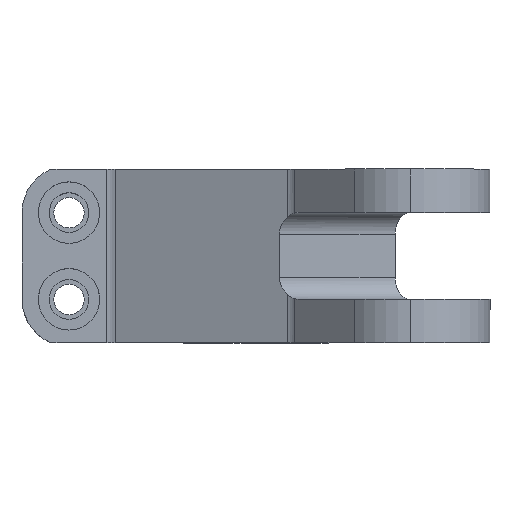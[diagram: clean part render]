
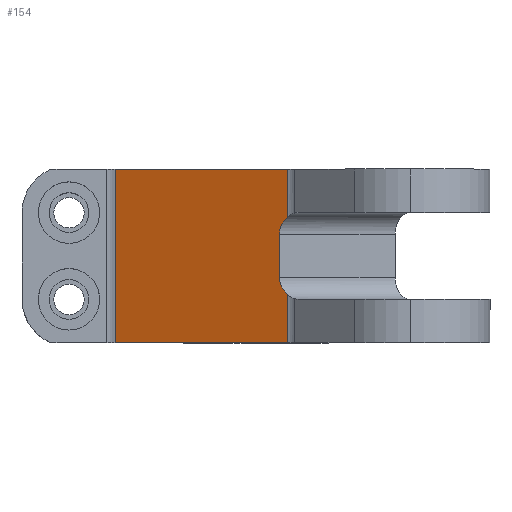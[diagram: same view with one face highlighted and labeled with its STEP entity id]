
A CAD part, top view. The second image highlights one B-rep face of the part: STEP entity #154.
In plain terms, the highlighted planar face has unit normal (-0.383, 0, 0.924).
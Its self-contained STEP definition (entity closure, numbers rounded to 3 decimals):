
#15 = VERTEX_POINT ( 'NONE', #496 ) ;
#78 = CARTESIAN_POINT ( 'NONE',  ( -19.173, 0., 11. ) ) ;
#131 = VERTEX_POINT ( 'NONE', #1771 ) ;
#136 = ORIENTED_EDGE ( 'NONE', *, *, #277, .F. ) ;
#154 = ADVANCED_FACE ( 'NONE', ( #1703 ), #1777, .T. ) ;
#157 = ORIENTED_EDGE ( 'NONE', *, *, #988, .F. ) ;
#187 = CARTESIAN_POINT ( 'NONE',  ( 4.106, -27.009, 20.643 ) ) ;
#194 = DIRECTION ( 'NONE',  ( 0.924, 0., 0.383 ) ) ;
#201 = DIRECTION ( 'NONE',  ( 0., 1., 0. ) ) ;
#240 = VERTEX_POINT ( 'NONE', #1607 ) ;
#249 = VECTOR ( 'NONE', #676, 1000. ) ;
#250 = DIRECTION ( 'NONE',  ( 0., 1., 0. ) ) ;
#263 = CARTESIAN_POINT ( 'NONE',  ( 5.228, 17.34, 21.107 ) ) ;
#277 = EDGE_CURVE ( 'NONE', #737, #865, #1632, .T. ) ;
#287 = EDGE_CURVE ( 'NONE', #612, #131, #413, .T. ) ;
#344 = CARTESIAN_POINT ( 'NONE',  ( -18.622, 24., 11.228 ) ) ;
#355 = CARTESIAN_POINT ( 'NONE',  ( 5.228, 6.309, 21.107 ) ) ;
#365 = CARTESIAN_POINT ( 'NONE',  ( 4.506, 7.24, 20.808 ) ) ;
#410 = CARTESIAN_POINT ( 'NONE',  ( 4.106, 15., 20.643 ) ) ;
#413 = LINE ( 'NONE', #866, #771 ) ;
#496 = CARTESIAN_POINT ( 'NONE',  ( 5.228, 0., 21.107 ) ) ;
#515 = ORIENTED_EDGE ( 'NONE', *, *, #287, .T. ) ;
#587 =( BOUNDED_CURVE ( )  B_SPLINE_CURVE ( 3, ( #814, #1268, #365, #1426 ),
 .UNSPECIFIED., .F., .F. ) 
 B_SPLINE_CURVE_WITH_KNOTS ( ( 4, 4 ),
 ( 3.142, 4.036 ),
 .UNSPECIFIED. ) 
 CURVE ( )  GEOMETRIC_REPRESENTATION_ITEM ( )  RATIONAL_B_SPLINE_CURVE ( ( 1., 0.934, 0.934, 1. ) ) 
 REPRESENTATION_ITEM ( '' )  );
#605 = ORIENTED_EDGE ( 'NONE', *, *, #1911, .F. ) ;
#612 = VERTEX_POINT ( 'NONE', #344 ) ;
#638 = DIRECTION ( 'NONE',  ( 0., -1., 0. ) ) ;
#645 = LINE ( 'NONE', #78, #249 ) ;
#647 = VECTOR ( 'NONE', #194, 1000. ) ;
#673 = CARTESIAN_POINT ( 'NONE',  ( 5.228, 6.66, 21.107 ) ) ;
#676 = DIRECTION ( 'NONE',  ( -0.924, 0., -0.383 ) ) ;
#737 = VERTEX_POINT ( 'NONE', #1230 ) ;
#769 = CARTESIAN_POINT ( 'NONE',  ( 5.228, 24., 21.107 ) ) ;
#771 = VECTOR ( 'NONE', #1024, 1000. ) ;
#786 = LINE ( 'NONE', #187, #1899 ) ;
#814 = CARTESIAN_POINT ( 'NONE',  ( 4.106, 9., 20.643 ) ) ;
#824 = ORIENTED_EDGE ( 'NONE', *, *, #1442, .T. ) ;
#865 = VERTEX_POINT ( 'NONE', #1428 ) ;
#866 = CARTESIAN_POINT ( 'NONE',  ( -18.622, 0., 11.228 ) ) ;
#876 = DIRECTION ( 'NONE',  ( -0.383, 0., 0.924 ) ) ;
#952 = CARTESIAN_POINT ( 'NONE',  ( -19.173, 24., 11. ) ) ;
#988 = EDGE_CURVE ( 'NONE', #240, #1296, #587, .T. ) ;
#1024 = DIRECTION ( 'NONE',  ( 0., -1., 0. ) ) ;
#1054 = LINE ( 'NONE', #952, #647 ) ;
#1094 = EDGE_CURVE ( 'NONE', #15, #1296, #1188, .T. ) ;
#1173 = CARTESIAN_POINT ( 'NONE',  ( -19.173, -27.009, 11. ) ) ;
#1181 = ORIENTED_EDGE ( 'NONE', *, *, #1094, .T. ) ;
#1188 = LINE ( 'NONE', #355, #1940 ) ;
#1190 = EDGE_CURVE ( 'NONE', #15, #131, #645, .T. ) ;
#1230 = CARTESIAN_POINT ( 'NONE',  ( 5.228, 17.34, 21.107 ) ) ;
#1268 = CARTESIAN_POINT ( 'NONE',  ( 4.106, 8.074, 20.643 ) ) ;
#1296 = VERTEX_POINT ( 'NONE', #673 ) ;
#1308 = CARTESIAN_POINT ( 'NONE',  ( 4.506, 16.76, 20.808 ) ) ;
#1328 = AXIS2_PLACEMENT_3D ( 'NONE', #1173, #876, #1927 ) ;
#1403 = VECTOR ( 'NONE', #250, 1000. ) ;
#1426 = CARTESIAN_POINT ( 'NONE',  ( 5.228, 6.66, 21.107 ) ) ;
#1428 = CARTESIAN_POINT ( 'NONE',  ( 4.106, 15., 20.643 ) ) ;
#1442 = EDGE_CURVE ( 'NONE', #737, #1765, #1803, .T. ) ;
#1536 = ORIENTED_EDGE ( 'NONE', *, *, #1190, .F. ) ;
#1597 = CARTESIAN_POINT ( 'NONE',  ( 5.228, 24., 21.107 ) ) ;
#1607 = CARTESIAN_POINT ( 'NONE',  ( 4.106, 9., 20.643 ) ) ;
#1632 =( BOUNDED_CURVE ( )  B_SPLINE_CURVE ( 3, ( #263, #1308, #1761, #410 ),
 .UNSPECIFIED., .F., .F. ) 
 B_SPLINE_CURVE_WITH_KNOTS ( ( 4, 4 ),
 ( 2.247, 3.142 ),
 .UNSPECIFIED. ) 
 CURVE ( )  GEOMETRIC_REPRESENTATION_ITEM ( )  RATIONAL_B_SPLINE_CURVE ( ( 1., 0.934, 0.934, 1. ) ) 
 REPRESENTATION_ITEM ( '' )  );
#1703 = FACE_OUTER_BOUND ( 'NONE', #1751, .T. ) ;
#1751 = EDGE_LOOP ( 'NONE', ( #136, #824, #605, #515, #1536, #1181, #157, #1866 ) ) ;
#1761 = CARTESIAN_POINT ( 'NONE',  ( 4.106, 15.926, 20.643 ) ) ;
#1765 = VERTEX_POINT ( 'NONE', #769 ) ;
#1771 = CARTESIAN_POINT ( 'NONE',  ( -18.622, 0., 11.228 ) ) ;
#1777 = PLANE ( 'NONE',  #1328 ) ;
#1803 = LINE ( 'NONE', #1597, #1403 ) ;
#1862 = EDGE_CURVE ( 'NONE', #865, #240, #786, .T. ) ;
#1866 = ORIENTED_EDGE ( 'NONE', *, *, #1862, .F. ) ;
#1899 = VECTOR ( 'NONE', #638, 1000. ) ;
#1911 = EDGE_CURVE ( 'NONE', #612, #1765, #1054, .T. ) ;
#1927 = DIRECTION ( 'NONE',  ( 0.924, 0., 0.383 ) ) ;
#1940 = VECTOR ( 'NONE', #201, 1000. ) ;
